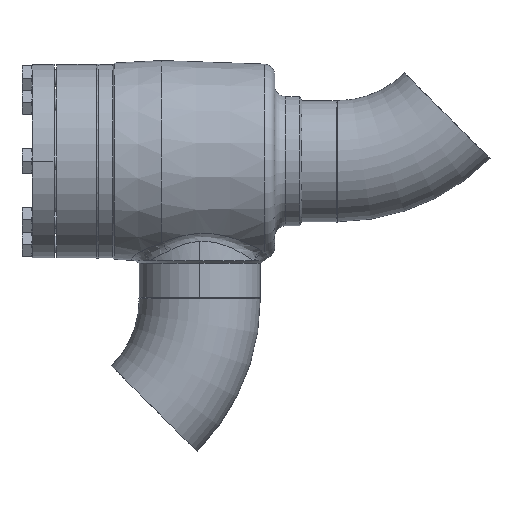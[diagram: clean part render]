
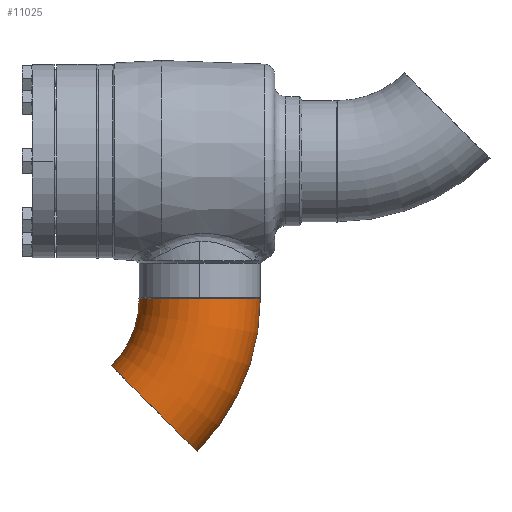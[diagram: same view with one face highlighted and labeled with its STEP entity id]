
A CAD part, left-side view. The second image highlights one B-rep face of the part: STEP entity #11025.
In plain terms, the highlighted toroidal (fillet/blend) face has major radius 114 mm and minor radius 44.45 mm.
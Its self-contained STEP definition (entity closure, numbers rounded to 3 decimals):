
#3695 = VERTEX_POINT ( 'NONE', #6947 ) ;
#3909 = EDGE_CURVE ( 'NONE', #3695, #7880, #7224, .T. ) ;
#4402 = ORIENTED_EDGE ( 'NONE', *, *, #3909, .F. ) ;
#6520 = FACE_OUTER_BOUND ( 'NONE', #12516, .T. ) ;
#6521 = TOROIDAL_SURFACE ( 'NONE', #6522, 114., 44.45 ) ;
#6522 = AXIS2_PLACEMENT_3D ( 'NONE', #6524, #6525, #6526 ) ;
#6524 = CARTESIAN_POINT ( 'NONE',  ( 0., -114., 0. ) ) ;
#6525 = DIRECTION ( 'NONE',  ( 0., 0., 1. ) ) ;
#6526 = DIRECTION ( 'NONE',  ( 1., 0., 0. ) ) ;
#6674 = CARTESIAN_POINT ( 'NONE',  ( 49.179, -64.821, 0. ) ) ;
#6947 = CARTESIAN_POINT ( 'NONE',  ( 112.041, -1.959, 0. ) ) ;
#7224 = CIRCLE ( 'NONE', #7226, 44.45 ) ;
#7226 = AXIS2_PLACEMENT_3D ( 'NONE', #7227, #7228, #7229 ) ;
#7227 = CARTESIAN_POINT ( 'NONE',  ( 80.61, -33.39, 0. ) ) ;
#7228 = DIRECTION ( 'NONE',  ( 0.707, -0.707, 0. ) ) ;
#7229 = DIRECTION ( 'NONE',  ( 0., 0., -1. ) ) ;
#7880 = VERTEX_POINT ( 'NONE', #6674 ) ;
#8541 = EDGE_CURVE ( 'NONE', #7880, #9367, #9952, .T. ) ;
#8885 = ORIENTED_EDGE ( 'NONE', *, *, #8541, .F. ) ;
#9367 = VERTEX_POINT ( 'NONE', #11388 ) ;
#9576 = EDGE_CURVE ( 'NONE', #10397, #9367, #14093, .T. ) ;
#9916 = ORIENTED_EDGE ( 'NONE', *, *, #9576, .T. ) ;
#9952 = CIRCLE ( 'NONE', #9953, 69.55 ) ;
#9953 = AXIS2_PLACEMENT_3D ( 'NONE', #9954, #9955, #9956 ) ;
#9954 = CARTESIAN_POINT ( 'NONE',  ( 0., -114., 0. ) ) ;
#9955 = DIRECTION ( 'NONE',  ( 0., 0., 1. ) ) ;
#9956 = DIRECTION ( 'NONE',  ( 1., 0., 0. ) ) ;
#10397 = VERTEX_POINT ( 'NONE', #15717 ) ;
#10816 = EDGE_CURVE ( 'NONE', #3695, #10397, #16270, .T. ) ;
#11025 = ADVANCED_FACE ( 'NONE', ( #6520 ), #6521, .T. ) ;
#11388 = CARTESIAN_POINT ( 'NONE',  ( 0., -44.45, 0. ) ) ;
#12516 = EDGE_LOOP ( 'NONE', ( #4402, #13471, #9916, #8885 ) ) ;
#13471 = ORIENTED_EDGE ( 'NONE', *, *, #10816, .T. ) ;
#14093 = CIRCLE ( 'NONE', #14094, 44.45 ) ;
#14094 = AXIS2_PLACEMENT_3D ( 'NONE', #14095, #14096, #14097 ) ;
#14095 = CARTESIAN_POINT ( 'NONE',  ( 0., 0., 0. ) ) ;
#14096 = DIRECTION ( 'NONE',  ( 1., 0., 0. ) ) ;
#14097 = DIRECTION ( 'NONE',  ( 0., 0., -1. ) ) ;
#15717 = CARTESIAN_POINT ( 'NONE',  ( 0., 44.45, 0. ) ) ;
#16270 = CIRCLE ( 'NONE', #16271, 158.45 ) ;
#16271 = AXIS2_PLACEMENT_3D ( 'NONE', #16272, #16273, #16274 ) ;
#16272 = CARTESIAN_POINT ( 'NONE',  ( 0., -114., 0. ) ) ;
#16273 = DIRECTION ( 'NONE',  ( 0., 0., 1. ) ) ;
#16274 = DIRECTION ( 'NONE',  ( 1., 0., 0. ) ) ;
